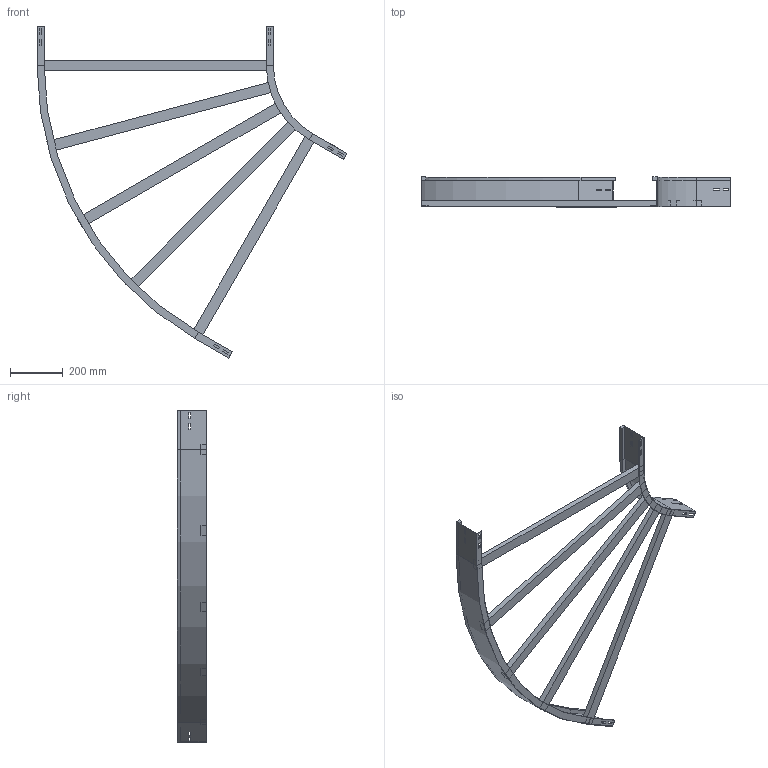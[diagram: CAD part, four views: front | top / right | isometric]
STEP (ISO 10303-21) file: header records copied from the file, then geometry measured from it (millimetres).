
FILE_DESCRIPTION (( 'STEP AP214' ), '1' );
FILE_NAME ('A2_13B3J900.step', '2025-02-21T15:19:48', ( '' ), ( '' ), 'SwSTEP 2.0', 'SolidWorks 2023', '' );
FILE_SCHEMA (( 'AUTOMOTIVE_DESIGN' ));
Length unit declared in the file: millimetre
Products named in the file (4): A2_LONGH.ESTERNO 60°_H112.5_R300+900; TRAVERSINO_900; A2_LONGH.INTERNO 60°_H112.5_R300; A2_13B3J900
Assembly tree (7 placements, depth 2):
  A2_13B3J900
    A2_LONGH.INTERNO 60°_H112.5_R300
    A2_LONGH.ESTERNO 60°_H112.5_R300+900
    TRAVERSINO_900  x5
Bounding box: 1179.9 x 112.5 x 1264.23 mm (x, y, z)
Volume: 4637633.9 mm3; surface area: 1224093.7 mm2
Topology: 7 solids, 7 shells, 146 faces, 364 edges, 232 vertices
Faces by surface type: plane 138, cylinder 8
Entity records: 3837 total; most frequent: CARTESIAN_POINT 648, ORIENTED_EDGE 632, DIRECTION 596, EDGE_CURVE 316, VECTOR 300, LINE 300, VERTEX_POINT 200, EDGE_LOOP 154
